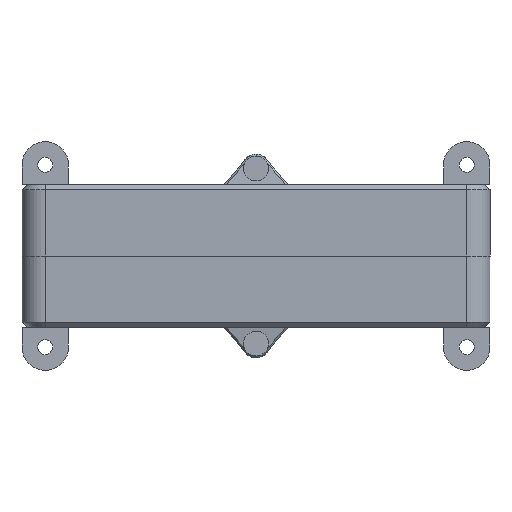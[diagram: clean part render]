
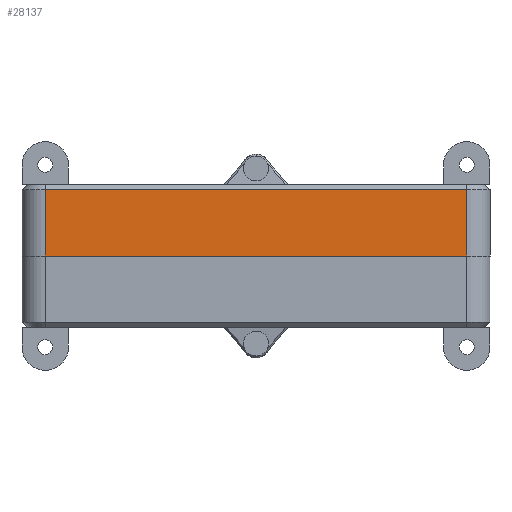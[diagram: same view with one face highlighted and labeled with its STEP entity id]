
A CAD part, front view. The second image highlights one B-rep face of the part: STEP entity #28137.
In plain terms, the highlighted planar face has unit normal (0, -1, 0).
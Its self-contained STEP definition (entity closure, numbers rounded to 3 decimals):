
#814=PLANE('',#29930);
#1518=LINE('',#37782,#4518);
#1637=LINE('',#38045,#4637);
#1676=LINE('',#38336,#4676);
#1677=LINE('',#38338,#4677);
#4518=VECTOR('',#31242,10.);
#4637=VECTOR('',#31463,10.);
#4676=VECTOR('',#31548,10.);
#4677=VECTOR('',#31551,10.);
#8218=FACE_OUTER_BOUND('',#9823,.T.);
#9823=EDGE_LOOP('',(#22268,#22269,#22270,#22271));
#12096=VERTEX_POINT('',#37779);
#12097=VERTEX_POINT('',#37781);
#12189=VERTEX_POINT('',#38039);
#12190=VERTEX_POINT('',#38043);
#14854=EDGE_CURVE('',#12096,#12097,#1518,.T.);
#14991=EDGE_CURVE('',#12190,#12189,#1637,.T.);
#15051=EDGE_CURVE('',#12097,#12190,#1676,.T.);
#15052=EDGE_CURVE('',#12189,#12096,#1677,.T.);
#22268=ORIENTED_EDGE('',*,*,#14991,.F.);
#22269=ORIENTED_EDGE('',*,*,#15051,.F.);
#22270=ORIENTED_EDGE('',*,*,#14854,.F.);
#22271=ORIENTED_EDGE('',*,*,#15052,.F.);
#28137=ADVANCED_FACE('',(#8218),#814,.T.);
#29930=AXIS2_PLACEMENT_3D('',#42969,#33394,#33395);
#31242=DIRECTION('',(1.,0.,0.));
#31463=DIRECTION('',(-1.,0.,0.));
#31548=DIRECTION('',(0.,0.,-1.));
#31551=DIRECTION('',(0.,0.,1.));
#33394=DIRECTION('center_axis',(0.,-1.,0.));
#33395=DIRECTION('ref_axis',(1.,0.,0.));
#37779=CARTESIAN_POINT('',(-59.,0.,20.));
#37781=CARTESIAN_POINT('',(59.,0.,20.));
#37782=CARTESIAN_POINT('',(-65.5,0.,20.));
#38039=CARTESIAN_POINT('',(-59.,0.,1.5));
#38043=CARTESIAN_POINT('',(59.,0.,1.5));
#38045=CARTESIAN_POINT('',(-32.75,0.,1.5));
#38336=CARTESIAN_POINT('',(59.,0.,0.));
#38338=CARTESIAN_POINT('',(-59.,0.,0.));
#42969=CARTESIAN_POINT('Origin',(-65.5,0.,0.));
